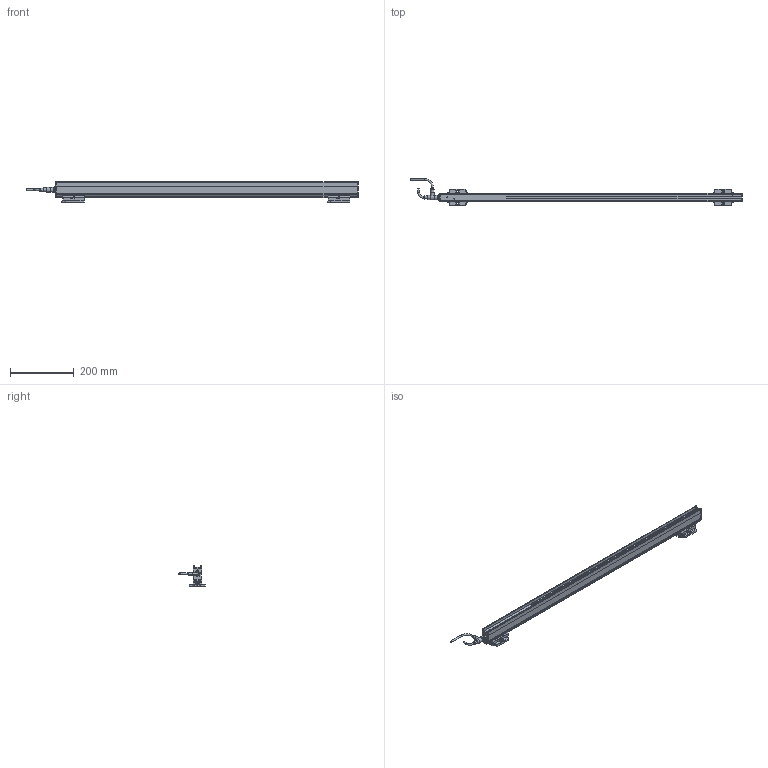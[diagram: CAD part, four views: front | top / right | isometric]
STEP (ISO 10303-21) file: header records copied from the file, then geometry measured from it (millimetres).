
FILE_DESCRIPTION(('Bauteilbeschreibung','HiCAD-Model','HiCAD-STEP-TRANSLATION','Bauteilbeschreibung'),'2;1');
FILE_NAME('PERFORMAXIQEASY_870-960_3D.STP','2014-03-05T11:29:52+00:00',('Konstrukteur'),('Konstrukteur Firma GmbH'),' HiCAD 2011, Step 1600.0 ','HiCAD 2011','confidential');
FILE_SCHEMA(('AUTOMOTIVE_DESIGN { 1 2 10303 214 0 1 1 1 }'));
Products named in the file (38): PERFORMAXIQEASY_870_960_3D; A_PERFORMAX IQ EASY 870_960; A_PERFORMAX IQ EASY SPEED; A_CAP DE; A_CAP CE_5; GROUP; PIN; GROUP0; PIN0; LED_2C_3MM; LED02C03MM; A519020315_CONNECTOR APPLIANCE; A_INSERT; A_CONTACTS; A_HOUSING; A_PROFILE; A_POTTING; A532000100_BRACKET BARS_ MOUNT; A_SIDE PIECE; A0SIDE0PIECE; A_BRACKET SMALL; A_SLIDE PIECE; A5320001000BRACKET0BARS00MOUNT; A0SIDE0PIECE0; A0SIDE0PIECE1; A0BRACKET0SMALL; A0SLIDE0PIECE; A_CONNECTOR STRAIGHT; EXTRUDED SOLID_0; DRAAD GEBOGEN; REVOLVED SOLID_1; REVOLVED SOLID_3; A_CONNECTOR ANGLED; REVOLVED0SOLID01; EXTRUDED0SOLID00; C_EDGE SWEEP_0; REVOLVED SOLID_2; REVOLVED0SOLID03
Assembly tree (37 placements, depth 5):
  PERFORMAXIQEASY_870_960_3D
    A_PERFORMAX IQ EASY 870_960
      A_PERFORMAX IQ EASY SPEED
        A_CAP DE
        A_CAP CE_5
        GROUP
          PIN
        GROUP0
          PIN0
        LED_2C_3MM
        LED02C03MM
        A519020315_CONNECTOR APPLIANCE
          A_INSERT
          A_CONTACTS
          A_HOUSING
        A_PROFILE
        A_POTTING
      A532000100_BRACKET BARS_ MOUNT
        A_SIDE PIECE
        A0SIDE0PIECE
        A_BRACKET SMALL
        A_SLIDE PIECE
      A5320001000BRACKET0BARS00MOUNT
        A0SIDE0PIECE0
        A0SIDE0PIECE1
        A0BRACKET0SMALL
        A0SLIDE0PIECE
      A_CONNECTOR STRAIGHT
        EXTRUDED SOLID_0
        DRAAD GEBOGEN
        REVOLVED SOLID_1
        REVOLVED SOLID_3
      A_CONNECTOR ANGLED
        REVOLVED0SOLID01
        EXTRUDED0SOLID00
        C_EDGE SWEEP_0
        REVOLVED SOLID_2
        REVOLVED0SOLID03
Bounding box: 1037.89 x 84.28 x 63.13 mm (x, y, z)
Volume: 1000744.9 mm3; surface area: 261646.6 mm2
Topology: 33 solids, 33 shells, 1911 faces, 4879 edges, 2932 vertices
Faces by surface type: cylinder 777, plane 751, sphere 112, torus 111, bspline 88, cone 72
Full cylindrical faces by diameter (mm): 0.8 x10, 1 x5, 2.387 x4, 3 x11, 3.1 x1, 4.2 x2, 5 x4, 5.5 x10, 8 x2, 8.2 x1, 8.4 x2, 8.945 x1, 9 x2, 10.2 x1, 10.5 x3, 11 x1, 12 x3, 12.8 x1, 13.8 x4, 14.5 x3
Entity records: 87383 total; most frequent: CARTESIAN_POINT 19760, DIRECTION 9521, ORIENTED_EDGE 9176, EDGE_CURVE 4588, COLOUR_RGB 4377, PRESENTATION_STYLE_ASSIGNMENT 4377, OVER_RIDING_STYLED_ITEM 4349, CURVE_STYLE 4344
